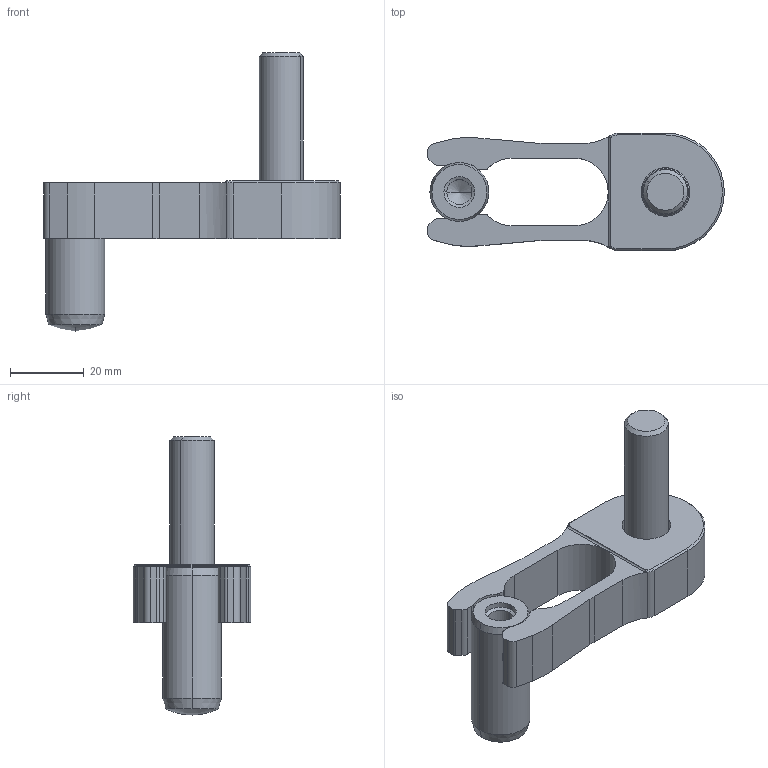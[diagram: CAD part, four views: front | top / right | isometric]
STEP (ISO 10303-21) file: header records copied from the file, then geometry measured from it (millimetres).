
FILE_DESCRIPTION (( 'STEP AP214' ), '1' );
FILE_NAME ('RC328016.STEP', '2017-05-16T14:56:24', ( '' ), ( '' ), 'SwSTEP 2.0', 'SolidWorks 2017', '' );
FILE_SCHEMA (( 'AUTOMOTIVE_DESIGN' ));
Length unit declared in the file: millimetre
Products named in the file (4): RC328016; 1PCR79791640_ISO 8735-16x40-A-St; 1DIN79911250_DIN 7991 - M12 x 50 --- 50C; 9RC328016
Assembly tree (3 placements, depth 2):
  RC328016
    9RC328016
    1PCR79791640_ISO 8735-16x40-A-St
    1DIN79911250_DIN 7991 - M12 x 50 --- 50C
Bounding box: 80.6 x 32 x 75.6 mm (x, y, z)
Volume: 32509.9 mm3; surface area: 13416.6 mm2
Topology: 3 solids, 3 shells, 105 faces, 260 edges, 159 vertices
Faces by surface type: cylinder 41, plane 39, cone 21, sphere 2, torus 2
Entity records: 3295 total; most frequent: DIRECTION 581, CARTESIAN_POINT 550, ORIENTED_EDGE 512, EDGE_CURVE 256, AXIS2_PLACEMENT_3D 218, VERTEX_POINT 159, LINE 145, VECTOR 145
